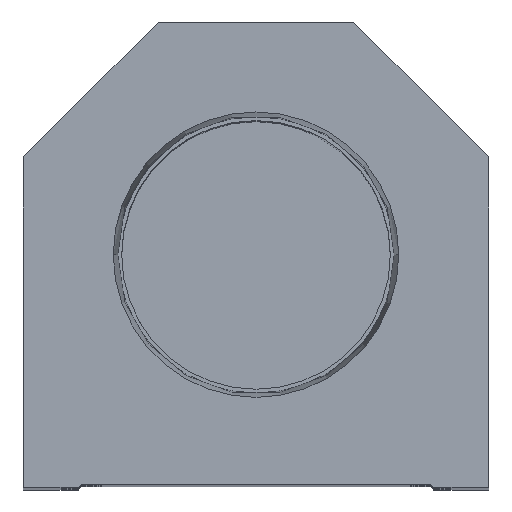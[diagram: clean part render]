
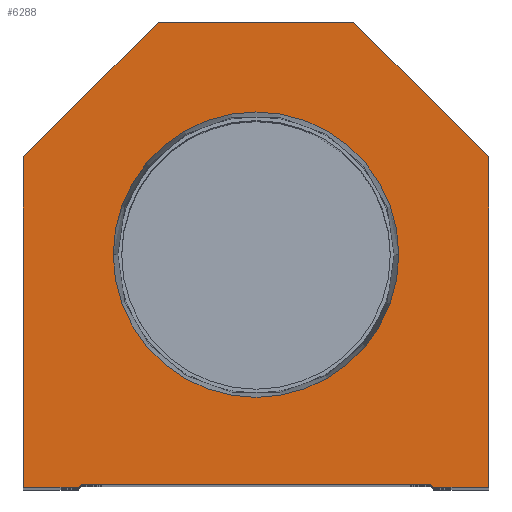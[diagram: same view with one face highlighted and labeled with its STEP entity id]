
A CAD part, top view. The second image highlights one B-rep face of the part: STEP entity #6288.
In plain terms, the highlighted planar face has unit normal (0, 0, 1).
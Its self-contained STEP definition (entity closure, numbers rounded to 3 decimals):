
#22 = VECTOR ( 'NONE', #11528, 1000. ) ;
#180 = CARTESIAN_POINT ( 'NONE',  ( 38.1, 0., 0. ) ) ;
#216 = DIRECTION ( 'NONE',  ( 0., 1., 0. ) ) ;
#347 = DIRECTION ( 'NONE',  ( 1., 0., 0. ) ) ;
#705 = VERTEX_POINT ( 'NONE', #14892 ) ;
#950 = CARTESIAN_POINT ( 'NONE',  ( 23.374, 38.1, 0. ) ) ;
#954 = ORIENTED_EDGE ( 'NONE', *, *, #17486, .T. ) ;
#1275 = VECTOR ( 'NONE', #216, 1000. ) ;
#1775 = LINE ( 'NONE', #13790, #2528 ) ;
#1852 = VERTEX_POINT ( 'NONE', #9446 ) ;
#1967 = DIRECTION ( 'NONE',  ( 0., -1., 0. ) ) ;
#2023 = DIRECTION ( 'NONE',  ( 0.707, -0.707, 0. ) ) ;
#2054 = LINE ( 'NONE', #19494, #1275 ) ;
#2083 = VECTOR ( 'NONE', #4568, 1000. ) ;
#2350 = VERTEX_POINT ( 'NONE', #13099 ) ;
#2363 = EDGE_CURVE ( 'NONE', #2350, #4436, #19830, .T. ) ;
#2528 = VECTOR ( 'NONE', #13676, 1000. ) ;
#3090 = VECTOR ( 'NONE', #18760, 1000. ) ;
#3134 = CARTESIAN_POINT ( 'NONE',  ( -28.6, 0.5, 0. ) ) ;
#3200 = VECTOR ( 'NONE', #4041, 1000. ) ;
#3287 = EDGE_CURVE ( 'NONE', #21390, #17287, #3389, .T. ) ;
#3389 = CIRCLE ( 'NONE', #16081, 23.374 ) ;
#3566 = EDGE_CURVE ( 'NONE', #4436, #8834, #20518, .T. ) ;
#3585 = EDGE_CURVE ( 'NONE', #14069, #10104, #4932, .T. ) ;
#4041 = DIRECTION ( 'NONE',  ( 0.707, 0.707, 0. ) ) ;
#4158 = CARTESIAN_POINT ( 'NONE',  ( -14.55, 14.55, 0. ) ) ;
#4288 = CIRCLE ( 'NONE', #19928, 23.374 ) ;
#4436 = VERTEX_POINT ( 'NONE', #5721 ) ;
#4568 = DIRECTION ( 'NONE',  ( -1., 0., 0. ) ) ;
#4856 = CARTESIAN_POINT ( 'NONE',  ( -38.1, 0., 0. ) ) ;
#4932 = LINE ( 'NONE', #8577, #22 ) ;
#5152 = VECTOR ( 'NONE', #5280, 1000. ) ;
#5253 = ORIENTED_EDGE ( 'NONE', *, *, #2363, .T. ) ;
#5280 = DIRECTION ( 'NONE',  ( 1., 0., 0. ) ) ;
#5344 = VECTOR ( 'NONE', #2023, 1000. ) ;
#5721 = CARTESIAN_POINT ( 'NONE',  ( -16., 76.2, 0. ) ) ;
#5911 = ORIENTED_EDGE ( 'NONE', *, *, #19794, .T. ) ;
#6130 = EDGE_LOOP ( 'NONE', ( #19533, #21957, #954, #15664, #21365, #12435, #11538, #5253, #17959, #5911 ) ) ;
#6288 = ADVANCED_FACE ( 'NONE', ( #7139, #6915 ), #19216, .T. ) ;
#6915 = FACE_OUTER_BOUND ( 'NONE', #6130, .T. ) ;
#7139 = FACE_BOUND ( 'NONE', #22450, .T. ) ;
#8094 = CARTESIAN_POINT ( 'NONE',  ( 16., 76.2, 0. ) ) ;
#8241 = CARTESIAN_POINT ( 'NONE',  ( -38.1, 54.1, 0. ) ) ;
#8300 = CARTESIAN_POINT ( 'NONE',  ( -38.1, 54.1, 0. ) ) ;
#8421 = EDGE_CURVE ( 'NONE', #1852, #16150, #14503, .T. ) ;
#8577 = CARTESIAN_POINT ( 'NONE',  ( 28.6, 0., 0. ) ) ;
#8834 = VERTEX_POINT ( 'NONE', #8300 ) ;
#8850 = CARTESIAN_POINT ( 'NONE',  ( 0., 0., 0. ) ) ;
#8964 = DIRECTION ( 'NONE',  ( 0., 0., 1. ) ) ;
#9026 = EDGE_CURVE ( 'NONE', #705, #14069, #12392, .T. ) ;
#9188 = VERTEX_POINT ( 'NONE', #12189 ) ;
#9446 = CARTESIAN_POINT ( 'NONE',  ( -29.1, 0., 0. ) ) ;
#9903 = EDGE_CURVE ( 'NONE', #17287, #21390, #4288, .T. ) ;
#9973 = VECTOR ( 'NONE', #1967, 1000. ) ;
#10104 = VERTEX_POINT ( 'NONE', #180 ) ;
#11081 = CARTESIAN_POINT ( 'NONE',  ( 29.1, 0., 0. ) ) ;
#11221 = EDGE_CURVE ( 'NONE', #22117, #2350, #1775, .T. ) ;
#11528 = DIRECTION ( 'NONE',  ( 1., 0., 0. ) ) ;
#11538 = ORIENTED_EDGE ( 'NONE', *, *, #11221, .T. ) ;
#11682 = CARTESIAN_POINT ( 'NONE',  ( -28.6, 0., 0. ) ) ;
#12189 = CARTESIAN_POINT ( 'NONE',  ( -38.1, 0., 0. ) ) ;
#12392 = LINE ( 'NONE', #16063, #5344 ) ;
#12435 = ORIENTED_EDGE ( 'NONE', *, *, #13036, .T. ) ;
#13036 = EDGE_CURVE ( 'NONE', #10104, #22117, #2054, .T. ) ;
#13099 = CARTESIAN_POINT ( 'NONE',  ( 16., 76.2, 0. ) ) ;
#13676 = DIRECTION ( 'NONE',  ( -0.707, 0.707, 0. ) ) ;
#13790 = CARTESIAN_POINT ( 'NONE',  ( 38.1, 54.1, 0. ) ) ;
#14069 = VERTEX_POINT ( 'NONE', #11081 ) ;
#14503 = LINE ( 'NONE', #4158, #3200 ) ;
#14892 = CARTESIAN_POINT ( 'NONE',  ( 28.6, 0.5, 0. ) ) ;
#15072 = DIRECTION ( 'NONE',  ( -0.707, -0.707, 0. ) ) ;
#15578 = LINE ( 'NONE', #11682, #3090 ) ;
#15664 = ORIENTED_EDGE ( 'NONE', *, *, #9026, .T. ) ;
#15898 = DIRECTION ( 'NONE',  ( 1., 0., 0. ) ) ;
#16063 = CARTESIAN_POINT ( 'NONE',  ( 14.55, 14.55, 0. ) ) ;
#16081 = AXIS2_PLACEMENT_3D ( 'NONE', #16906, #18966, #20547 ) ;
#16150 = VERTEX_POINT ( 'NONE', #3134 ) ;
#16247 = CARTESIAN_POINT ( 'NONE',  ( -23.374, 38.1, 0. ) ) ;
#16339 = DIRECTION ( 'NONE',  ( 0., 0., 1. ) ) ;
#16906 = CARTESIAN_POINT ( 'NONE',  ( 0., 38.1, 0. ) ) ;
#17093 = CARTESIAN_POINT ( 'NONE',  ( 38.1, 54.1, 0. ) ) ;
#17287 = VERTEX_POINT ( 'NONE', #950 ) ;
#17486 = EDGE_CURVE ( 'NONE', #16150, #705, #18946, .T. ) ;
#17959 = ORIENTED_EDGE ( 'NONE', *, *, #3566, .T. ) ;
#18573 = ORIENTED_EDGE ( 'NONE', *, *, #9903, .F. ) ;
#18760 = DIRECTION ( 'NONE',  ( 1., 0., 0. ) ) ;
#18946 = LINE ( 'NONE', #19066, #5152 ) ;
#18966 = DIRECTION ( 'NONE',  ( 0., 0., 1. ) ) ;
#19066 = CARTESIAN_POINT ( 'NONE',  ( -28.6, 0.5, 0. ) ) ;
#19216 = PLANE ( 'NONE',  #21294 ) ;
#19494 = CARTESIAN_POINT ( 'NONE',  ( 38.1, 0., 0. ) ) ;
#19533 = ORIENTED_EDGE ( 'NONE', *, *, #21815, .T. ) ;
#19794 = EDGE_CURVE ( 'NONE', #8834, #9188, #20436, .T. ) ;
#19830 = LINE ( 'NONE', #8094, #2083 ) ;
#19928 = AXIS2_PLACEMENT_3D ( 'NONE', #21121, #16339, #347 ) ;
#20436 = LINE ( 'NONE', #4856, #9973 ) ;
#20518 = LINE ( 'NONE', #8241, #21947 ) ;
#20547 = DIRECTION ( 'NONE',  ( 1., 0., 0. ) ) ;
#20976 = ORIENTED_EDGE ( 'NONE', *, *, #3287, .F. ) ;
#21121 = CARTESIAN_POINT ( 'NONE',  ( 0., 38.1, 0. ) ) ;
#21294 = AXIS2_PLACEMENT_3D ( 'NONE', #8850, #8964, #15898 ) ;
#21365 = ORIENTED_EDGE ( 'NONE', *, *, #3585, .T. ) ;
#21390 = VERTEX_POINT ( 'NONE', #16247 ) ;
#21815 = EDGE_CURVE ( 'NONE', #9188, #1852, #15578, .T. ) ;
#21947 = VECTOR ( 'NONE', #15072, 1000. ) ;
#21957 = ORIENTED_EDGE ( 'NONE', *, *, #8421, .T. ) ;
#22117 = VERTEX_POINT ( 'NONE', #17093 ) ;
#22450 = EDGE_LOOP ( 'NONE', ( #18573, #20976 ) ) ;
